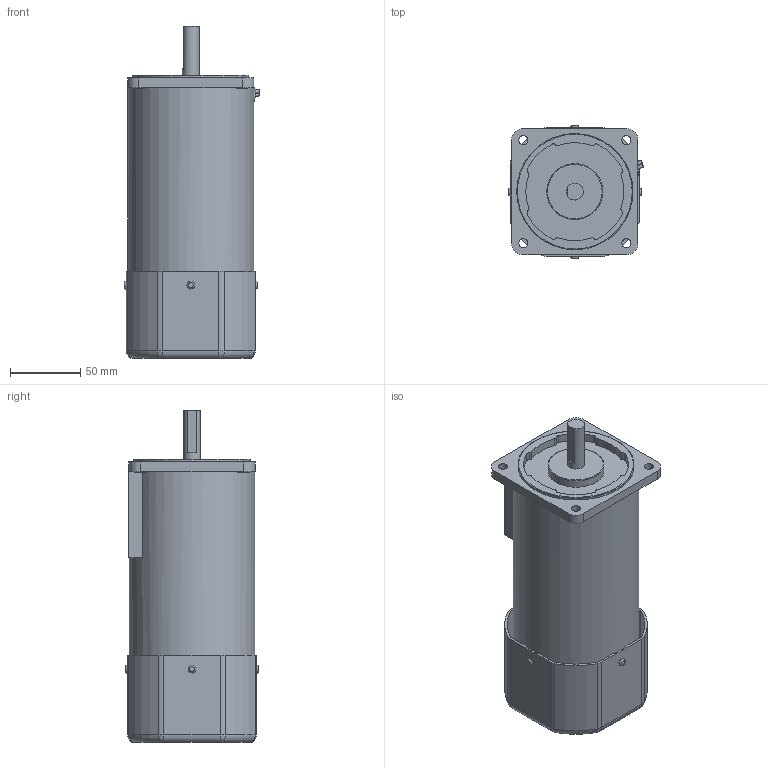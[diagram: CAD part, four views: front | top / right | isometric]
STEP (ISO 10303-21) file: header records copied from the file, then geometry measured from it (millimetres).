
FILE_DESCRIPTION((''),'2;1');
FILE_NAME('E:\2공장-도면\3D\표준형 3D(민규)\step file\K9IS200Fㅁ-B.stp','2014-11-11T10:50:28',('AHN'),(''),'Autodesk Inventor 2012','Autodesk Inventor 2012','');
FILE_SCHEMA(('CONFIG_CONTROL_DESIGN'));
Length unit declared in the file: millimetre
Products named in the file (1): K9IS200Fㅁ-B
Bounding box: 96.71 x 95 x 237 mm (x, y, z)
Volume: 1228187.6 mm3; surface area: 117483 mm2
Topology: 1 solids, 1 shells, 241 faces, 610 edges, 373 vertices
Faces by surface type: cylinder 120, plane 75, torus 38, bspline 8
Full cylindrical faces by diameter (mm): 6.5 x4, 8 x4, 12 x1, 40 x1, 83 x1, 90 x1
Entity records: 7831 total; most frequent: CARTESIAN_POINT 2011, DIRECTION 1252, ORIENTED_EDGE 1166, EDGE_CURVE 583, AXIS2_PLACEMENT_3D 492, VERTEX_POINT 364, EDGE_LOOP 304, VECTOR 268
